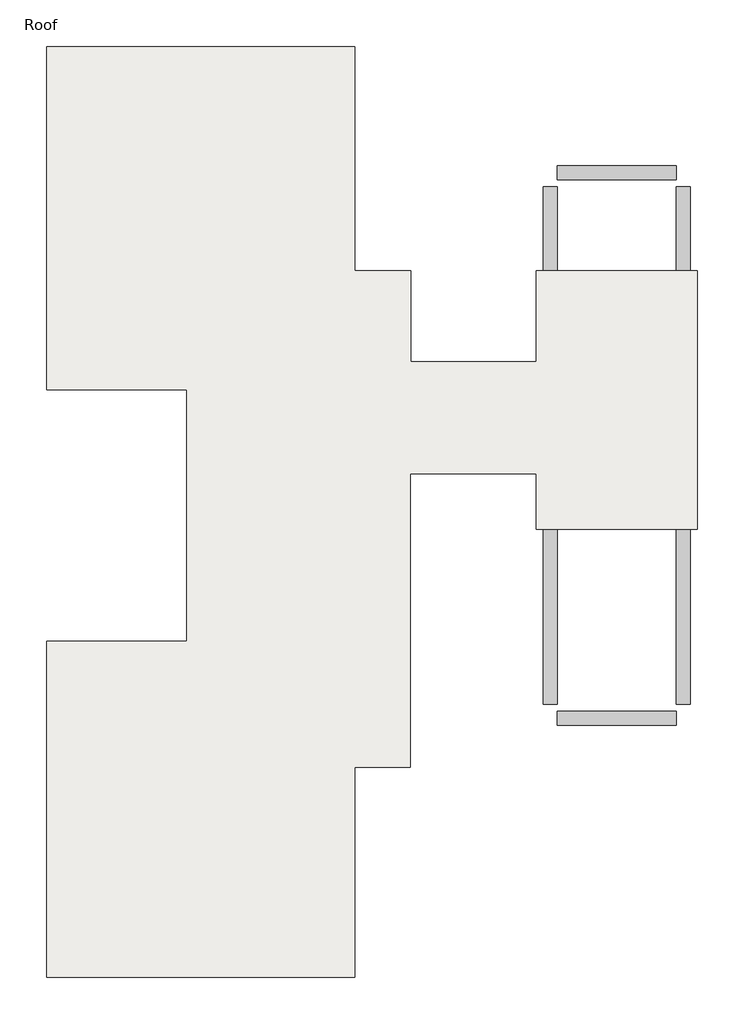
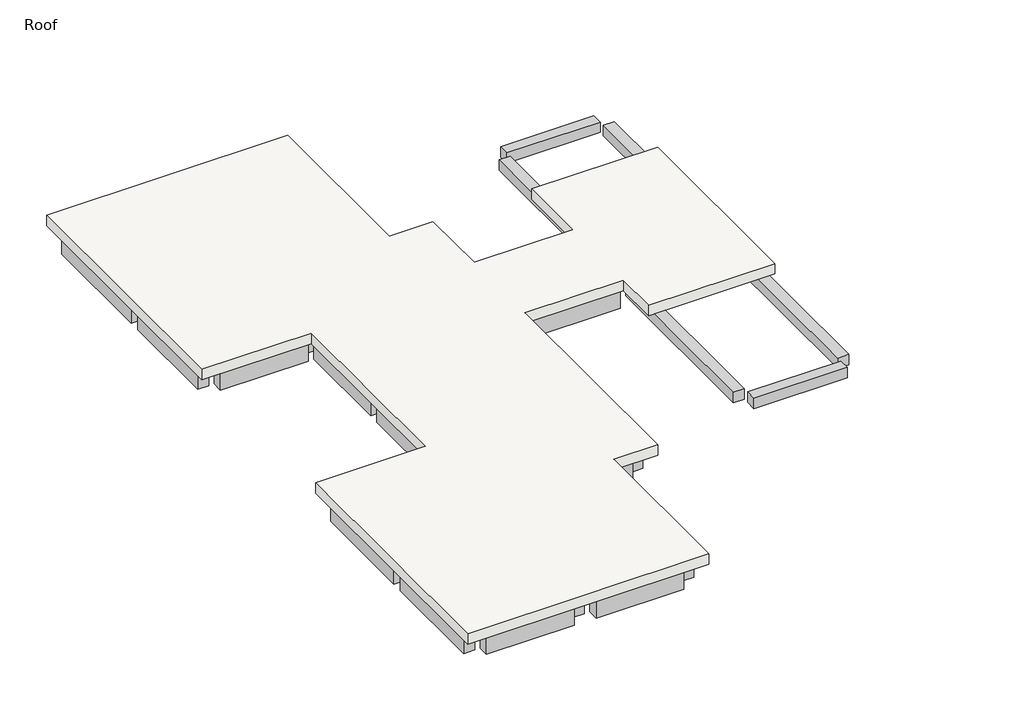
# One storey: 45 beams, 1 slab.
"""IFC4 building model written with IfcOpenShell, lengths in millimetres."""

import ifcopenshell
import ifcopenshell.guid

model = None  # the IFC model being written
_history = None  # IfcOwnerHistory: only IFC2X3 demands one
_inside = {}  # id of a spatial element -> (the spatial element, [elements in it])
_under = {}  # id of a project, library or spatial element -> (it, [spatial elements below it])
_declared = {}  # id of a project -> (the project, [libraries it declares])
_typed = {}  # id of a type object -> (the type object, [elements of that type])
_made_of = {}  # id of a material, layer set ... -> (it, [elements and type objects made of it])


def new_model(schema):
    """Start an empty IFC model of exactly this schema.

    Asked for "IFC4X3", IfcOpenShell would pick the latest addendum, in which some entities
    have other attributes; the version numbers below select the first issue.
    IFC2X3 requires an IfcOwnerHistory on every rooted entity: one is made here for all.
    """
    global model, _history
    if schema == "IFC4X3":
        model = ifcopenshell.file(schema_version=(4, 3, 0, 0))
    else:
        model = ifcopenshell.file(schema=schema)
    _inside.clear()
    _under.clear()
    _declared.clear()
    _typed.clear()
    _made_of.clear()
    _history = None
    if model.schema == "IFC2X3":
        org = make("IfcOrganization", Name="unknown")
        user = make(
            "IfcPersonAndOrganization",
            ThePerson=make("IfcPerson", FamilyName="unknown"),
            TheOrganization=org,
        )
        app = make(
            "IfcApplication",
            ApplicationDeveloper=org,
            Version="unknown",
            ApplicationFullName="unknown",
            ApplicationIdentifier="unknown",
        )
        _history = make(
            "IfcOwnerHistory",
            OwningUser=user,
            OwningApplication=app,
            ChangeAction="ADDED",
            CreationDate=0,
        )
    return model


def make(cls, **values):
    """One entity of the class cls with the attributes given. An attribute that is None is left unset."""
    return model.create_entity(
        cls, **{name: value for name, value in values.items() if value is not None}
    )


def rooted(cls, **values):
    """An entity with a GlobalId (a new one), such as an element, a storey or a relation."""
    return make(cls, GlobalId=ifcopenshell.guid.new(), OwnerHistory=_history, **values)


def si_unit(unit_type, name, prefix=None):
    """IfcSIUnit, for example si_unit("LENGTHUNIT", "METRE", prefix="MILLI")."""
    return make("IfcSIUnit", UnitType=unit_type, Prefix=prefix, Name=name)


def assignment(units):
    """IfcUnitAssignment: the units of a project."""
    return None if units is None else make("IfcUnitAssignment", Units=units)


def point(xyz):
    """IfcCartesianPoint."""
    return None if xyz is None else make("IfcCartesianPoint", Coordinates=xyz)


def direction(xyz):
    """IfcDirection."""
    return None if xyz is None else make("IfcDirection", DirectionRatios=xyz)


def frame(location, z_axis=None, x_axis=None):
    """IfcAxis2Placement3D, a coordinate frame: its origin and axes. An axis left out is left unset."""
    return make(
        "IfcAxis2Placement3D",
        Location=point(location),
        Axis=direction(z_axis),
        RefDirection=direction(x_axis),
    )


def origin():
    """The frame at (0, 0, 0) with its axes left unset."""
    return frame((0.0, 0.0, 0.0))


def place(relative_to, where):
    """IfcLocalPlacement: puts the frame where relative to a parent placement (None: the world)."""
    return make(
        "IfcLocalPlacement", PlacementRelTo=relative_to, RelativePlacement=where
    )


def context(
    kind, dimensions, precision=None, world=None, true_north=None, identifier=None
):
    """IfcGeometricRepresentationContext, for example the 3D "Model" context."""
    return make(
        "IfcGeometricRepresentationContext",
        ContextIdentifier=identifier,
        ContextType=kind,
        CoordinateSpaceDimension=dimensions,
        Precision=precision,
        WorldCoordinateSystem=world,
        TrueNorth=true_north,
    )


def project(units=None, contexts=None):
    """IfcProject with its units and contexts."""
    return rooted(
        "IfcProject",
        Name="project",
        RepresentationContexts=contexts,
        UnitsInContext=assignment(units),
    )


def spatial(cls, under=None, at=None, **own):
    """A site, building, storey or space (cls), placed at a placement, below another one or the project."""
    s = rooted(cls, ObjectPlacement=at, **own)
    if under is not None:
        _under.setdefault(under.id(), (under, []))[1].append(s)
    return s


def polyline(points):
    """IfcPolyline through the points."""
    return make("IfcPolyline", Points=[point(p) for p in points])


def outline(outer, holes=None, kind="AREA"):
    """IfcArbitraryClosedProfileDef: a profile drawn as a closed curve; with holes, ...WithVoids."""
    if holes is None:
        return make("IfcArbitraryClosedProfileDef", ProfileType=kind, OuterCurve=outer)
    return make(
        "IfcArbitraryProfileDefWithVoids",
        ProfileType=kind,
        OuterCurve=outer,
        InnerCurves=holes,
    )


def extrude(swept, where, along, depth):
    """IfcExtrudedAreaSolid: the profile swept, set in the frame where, extruded along a direction by depth."""
    return make(
        "IfcExtrudedAreaSolid",
        SweptArea=swept,
        Position=where,
        ExtrudedDirection=direction(along),
        Depth=depth,
    )


def faces_of(points, faces, orient=None, outer=None):
    """IfcFace entities. A face is a list of loops; a loop is a list of indices into points, from 0.

    orient and outer hold one flag for each loop. By default every Orientation is true, the
    first loop of a face is its IfcFaceOuterBound and the others are IfcFaceBound.
    """
    made = []
    for i, loops in enumerate(faces):
        bounds = []
        for j, loop in enumerate(loops):
            is_outer = j == 0 if outer is None else outer[i][j]
            bounds.append(
                make(
                    "IfcFaceOuterBound" if is_outer else "IfcFaceBound",
                    Bound=make("IfcPolyLoop", Polygon=[points[k] for k in loop]),
                    Orientation=True if orient is None else orient[i][j],
                )
            )
        made.append(make("IfcFace", Bounds=bounds))
    return made


def faceted_brep(points, faces, orient=None, outer=None, voids=None):
    """IfcFacetedBrep: a solid bounded by flat faces; with voids (closed shells), ...WithVoids."""
    shared = [point(p) for p in points]
    hull = make("IfcClosedShell", CfsFaces=faces_of(shared, faces, orient, outer))
    if voids is None:
        return make("IfcFacetedBrep", Outer=hull)
    return make(
        "IfcFacetedBrepWithVoids",
        Outer=hull,
        Voids=[
            make(cls, CfsFaces=faces_of(shared, fs, o, b)) for cls, fs, o, b in voids
        ],
    )


def shape(context_of_items, identifier, shape_type, items):
    """IfcShapeRepresentation: the items that make up one representation, for example the "Body"."""
    return make(
        "IfcShapeRepresentation",
        ContextOfItems=context_of_items,
        RepresentationIdentifier=identifier,
        RepresentationType=shape_type,
        Items=items,
    )


def made_of(thing, what):
    """Note that an element or type object is made of a material, layer set ...; save() writes the relation."""
    if what is not None:
        _made_of.setdefault(what.id(), (what, []))[1].append(thing)
    return thing


def element(
    cls,
    number,
    at=None,
    inside=None,
    cuts=None,
    type_object=None,
    material=None,
    context=None,
    identifier="Body",
    shape_type=None,
    held_by="IfcProductDefinitionShape",
    body=None,
    shapes=None,
    **own,
):
    """One element of the class cls, such as IfcWall. Its Tag is "e" and its number.

    at: its placement. inside: the storey or other place that contains it. cuts: it is an
    opening in that element (IfcRelVoidsElement). A single representation is given by context,
    identifier, shape_type and body (its items); several are given by shapes. held_by: the class
    of the entity that holds the representations. save() writes the other relations.
    """
    e = rooted(cls, Tag="e%d" % number, ObjectPlacement=at, **own)
    if body is not None:
        shapes = [shape(context, identifier, shape_type, body)]
    if shapes is not None:
        e.Representation = make(held_by, Representations=shapes)
    if inside is not None:
        _inside.setdefault(inside.id(), (inside, []))[1].append(e)
    if cuts is not None:
        rooted(
            "IfcRelVoidsElement", RelatingBuildingElement=cuts, RelatedOpeningElement=e
        )
    if type_object is not None:
        _typed.setdefault(type_object.id(), (type_object, []))[1].append(e)
    return made_of(e, material)


def aggregate(whole, parts):
    """IfcRelAggregates: a whole, such as a stair, and the parts it consists of."""
    return rooted("IfcRelAggregates", RelatingObject=whole, RelatedObjects=parts)


def save(model, path):
    """Write the relations noted so far, then the file.

    IfcRelAggregates (storeys below a building ...), IfcRelContainedInSpatialStructure (elements
    in a storey), IfcRelDefinesByType, IfcRelAssociatesMaterial and IfcRelDeclares: one each for
    every whole, place, type object, material and project.
    """
    for whole, parts in _under.values():
        aggregate(whole, parts)
    for where, things in _inside.values():
        rooted(
            "IfcRelContainedInSpatialStructure",
            RelatedElements=things,
            RelatingStructure=where,
        )
    for kind, things in _typed.values():
        rooted("IfcRelDefinesByType", RelatedObjects=things, RelatingType=kind)
    for what, things in _made_of.values():
        rooted("IfcRelAssociatesMaterial", RelatedObjects=things, RelatingMaterial=what)
    for by, libraries in _declared.values():
        rooted("IfcRelDeclares", RelatingContext=by, RelatedDefinitions=libraries)
    model.write(path)


model = new_model("IFC4")

# Units and contexts
model_context = context("Model", 3, world=origin())
ifc_project = project(units=[si_unit("LENGTHUNIT", "METRE", prefix="MILLI")], contexts=[model_context])

# Site, building, storey
site = spatial("IfcSite", under=ifc_project)
building = spatial("IfcBuilding", under=site)
storey = spatial("IfcBuildingStorey", under=building, Name="Roof", Elevation=7620.0)

# Beams
placement = place(None, origin())
element("IfcBeam", 1, ObjectType="Concrete-Rectangular Beam : 12 x 24", at=placement, inside=storey, context=model_context, shape_type="SweptSolid", body=[
    extrude(outline(polyline([(-12861.5073204, 23464.2572372), (-12861.5073204, 23769.0572372), (-10423.1073204, 23769.0572372), (-10423.1073204, 23464.2572372), (-12861.5073204, 23464.2572372)])), frame((0.0, 0.0, 6705.6), z_axis=(0.0, 0.0, 1.0), x_axis=(1.0, 0.0, 0.0)), (0.0, 0.0, 1.0), 609.6),
])
element("IfcBeam", 2, ObjectType="Concrete-Rectangular Beam : 12 x 24", at=placement, inside=storey, context=model_context, shape_type="SweptSolid", body=[
    extrude(outline(polyline([(-9813.5073204, 23464.2572372), (-9813.5073204, 23769.0572372), (-7375.1073204, 23769.0572372), (-7375.1073204, 23464.2572372), (-9813.5073204, 23464.2572372)])), frame((0.0, 0.0, 6705.6), z_axis=(0.0, 0.0, 1.0), x_axis=(1.0, 0.0, 0.0)), (0.0, 0.0, 1.0), 609.6),
])
element("IfcBeam", 3, ObjectType="Concrete-Rectangular Beam : 12 x 24", at=placement, inside=storey, context=model_context, shape_type="SweptSolid", body=[
    extrude(outline(polyline([(-7222.7073204, 23464.2572372), (-6917.9073204, 23464.2572372), (-6917.9073204, 20111.4572372), (-7222.7073204, 20111.4572372), (-7222.7073204, 23464.2572372)])), frame((0.0, 0.0, 6705.6), z_axis=(0.0, 0.0, 1.0), x_axis=(1.0, 0.0, 0.0)), (0.0, 0.0, 1.0), 609.6),
])
element("IfcBeam", 4, ObjectType="Concrete-Rectangular Beam : 12 x 24", at=placement, inside=storey, context=model_context, shape_type="SweptSolid", body=[
    extrude(outline(polyline([(-10270.7073204, 23464.2572372), (-9965.9073204, 23464.2572372), (-9965.9073204, 20111.4572372), (-10270.7073204, 20111.4572372), (-10270.7073204, 23464.2572372)])), frame((0.0, 0.0, 6705.6), z_axis=(0.0, 0.0, 1.0), x_axis=(1.0, 0.0, 0.0)), (0.0, 0.0, 1.0), 609.6),
])
element("IfcBeam", 5, ObjectType="Concrete-Rectangular Beam : 12 x 24", at=placement, inside=storey, context=model_context, shape_type="SweptSolid", body=[
    extrude(outline(polyline([(-13318.7073204, 23464.2572372), (-13013.9073204, 23464.2572372), (-13013.9073204, 20111.4572372), (-13318.7073204, 20111.4572372), (-13318.7073204, 23464.2572372)])), frame((0.0, 0.0, 6705.6), z_axis=(0.0, 0.0, 1.0), x_axis=(1.0, 0.0, 0.0)), (0.0, 0.0, 1.0), 609.6),
])
element("IfcBeam", 6, ObjectType="Concrete-Rectangular Beam : 12 x 24", at=placement, inside=storey, context=model_context, shape_type="SweptSolid", body=[
    extrude(outline(polyline([(-12861.5073204, 19806.6572372), (-12861.5073204, 20111.4572372), (-10423.1073204, 20111.4572372), (-10423.1073204, 19806.6572372), (-12861.5073204, 19806.6572372)])), frame((0.0, 0.0, 6705.6), z_axis=(0.0, 0.0, 1.0), x_axis=(1.0, 0.0, 0.0)), (0.0, 0.0, 1.0), 609.6),
])
element("IfcBeam", 7, ObjectType="Concrete-Rectangular Beam : 12 x 24", at=placement, inside=storey, context=model_context, shape_type="SweptSolid", body=[
    extrude(outline(polyline([(-9813.5073204, 19806.6572372), (-9813.5073204, 20111.4572372), (-7375.1073204, 20111.4572372), (-7375.1073204, 19806.6572372), (-9813.5073204, 19806.6572372)])), frame((0.0, 0.0, 6705.6), z_axis=(0.0, 0.0, 1.0), x_axis=(1.0, 0.0, 0.0)), (0.0, 0.0, 1.0), 609.6),
])
element("IfcBeam", 8, ObjectType="Concrete-Rectangular Beam : 12 x 24", at=placement, inside=storey, context=model_context, shape_type="SweptSolid", body=[
    extrude(outline(polyline([(-13318.7073204, 19806.6572372), (-13013.9073204, 19806.6572372), (-13013.9073204, 16911.0572372), (-13318.7073204, 16911.0572372), (-13318.7073204, 19806.6572372)])), frame((0.0, 0.0, 6705.6), z_axis=(0.0, 0.0, 1.0), x_axis=(1.0, 0.0, 0.0)), (0.0, 0.0, 1.0), 609.6),
])
element("IfcBeam", 9, ObjectType="Concrete-Rectangular Beam : 12 x 24", at=placement, inside=storey, context=model_context, shape_type="SweptSolid", body=[
    extrude(outline(polyline([(-10270.7073204, 19806.6572372), (-9965.9073204, 19806.6572372), (-9965.9073204, 16911.0572372), (-10270.7073204, 16911.0572372), (-10270.7073204, 19806.6572372)])), frame((0.0, 0.0, 6705.6), z_axis=(0.0, 0.0, 1.0), x_axis=(1.0, 0.0, 0.0)), (0.0, 0.0, 1.0), 609.6),
])
element("IfcBeam", 10, ObjectType="Concrete-Rectangular Beam : 12 x 24", at=placement, inside=storey, context=model_context, shape_type="Brep", body=[
    faceted_brep([(-6917.9073204, 19806.6572372, 7315.2), (-7222.7073204, 19806.6572372, 7315.2), (-7222.7073204, 18588.1999409, 7315.2), (-6917.9073204, 18588.1999409, 7315.2), (-6917.9073204, 18892.9999409, 7315.2), (-7222.7073204, 19806.6572372, 6705.6), (-7222.7073204, 18588.1999409, 6705.6), (-6917.9073204, 19806.6572372, 6705.6), (-6917.9073204, 18892.9999409, 6705.6), (-6917.9073204, 18588.1999409, 6705.6)], [[[0, 1, 2, 3, 4]], [[1, 5, 6, 2]], [[5, 7, 8, 9, 6]], [[3, 9, 8, 7, 0, 4]], [[0, 7, 5, 1]], [[3, 2, 6, 9]]]),
])
element("IfcBeam", 11, ObjectType="Concrete-Rectangular Beam : 12 x 24", at=placement, inside=storey, context=model_context, shape_type="SweptSolid", body=[
    extrude(outline(polyline([(-6917.9073204, 18588.1999409), (-6917.9073204, 18892.9999409), (-6156.6500241, 18892.9999409), (-6156.6500241, 18588.1999409), (-6917.9073204, 18588.1999409)])), frame((0.0, 0.0, 6705.6), z_axis=(0.0, 0.0, 1.0), x_axis=(1.0, 0.0, 0.0)), (0.0, 0.0, 1.0), 609.6),
])
element("IfcBeam", 12, ObjectType="Concrete-Rectangular Beam : 12 x 24", at=placement, inside=storey, context=model_context, shape_type="SweptSolid", body=[
    extrude(outline(polyline([(-6004.2500241, 18588.1999409), (-5699.4500241, 18588.1999409), (-5699.4500241, 16911.0572372), (-6004.2500241, 16911.0572372), (-6004.2500241, 18588.1999409)])), frame((0.0, 0.0, 6705.6), z_axis=(0.0, 0.0, 1.0), x_axis=(1.0, 0.0, 0.0)), (0.0, 0.0, 1.0), 609.6),
])
element("IfcBeam", 13, ObjectType="Concrete-Rectangular Beam : 12 x 24", at=placement, inside=storey, context=model_context, shape_type="SweptSolid", body=[
    extrude(outline(polyline([(-9813.5073204, 16606.2572372), (-9813.5073204, 16911.0572372), (-6156.6500241, 16911.0572372), (-6156.6500241, 16606.2572372), (-9813.5073204, 16606.2572372)])), frame((0.0, 0.0, 6705.6), z_axis=(0.0, 0.0, 1.0), x_axis=(1.0, 0.0, 0.0)), (0.0, 0.0, 1.0), 609.6),
])
element("IfcBeam", 14, ObjectType="Concrete-Rectangular Beam : 12 x 24", at=placement, inside=storey, context=model_context, shape_type="SweptSolid", body=[
    extrude(outline(polyline([(-12861.5073204, 16606.2572372), (-12861.5073204, 16911.0572372), (-10423.1073204, 16911.0572372), (-10423.1073204, 16606.2572372), (-12861.5073204, 16606.2572372)])), frame((0.0, 0.0, 6705.6), z_axis=(0.0, 0.0, 1.0), x_axis=(1.0, 0.0, 0.0)), (0.0, 0.0, 1.0), 609.6),
])
element("IfcBeam", 15, ObjectType="Concrete-Rectangular Beam : 12 x 24", at=placement, inside=storey, context=model_context, shape_type="SweptSolid", body=[
    extrude(outline(polyline([(-2803.8500241, 16911.0572372), (-2803.8500241, 16606.2572372), (-5547.0500241, 16606.2572372), (-5547.0500241, 16911.0572372), (-2803.8500241, 16911.0572372)])), frame((0.0, 0.0, 6705.6), z_axis=(0.0, 0.0, 1.0), x_axis=(1.0, 0.0, 0.0)), (0.0, 0.0, 1.0), 609.6),
])
element("IfcBeam", 16, ObjectType="Concrete-Rectangular Beam : 12 x 24", at=placement, inside=storey, context=model_context, shape_type="Brep", body=[
    faceted_brep([(-5699.4500241, 16606.2572372, 7315.2), (-6004.2500241, 16606.2572372, 7315.2), (-6004.2500241, 13863.0572372, 7315.2), (-5699.4500241, 13863.0572372, 7315.2), (-5699.4500241, 14777.4572372, 7315.2), (-5699.4500241, 15082.2572372, 7315.2), (-6004.2500241, 16606.2572372, 6705.6), (-6004.2500241, 13863.0572372, 6705.6), (-5699.4500241, 16606.2572372, 6705.6), (-5699.4500241, 15082.2572372, 6705.6), (-5699.4500241, 14777.4572372, 6705.6), (-5699.4500241, 13863.0572372, 6705.6)], [[[0, 1, 2, 3, 4, 5]], [[1, 6, 7, 2]], [[6, 8, 9, 10, 11, 7]], [[8, 0, 5, 4, 3, 11, 10, 9]], [[6, 1, 0, 8]], [[3, 2, 7, 11]]]),
])
element("IfcBeam", 17, ObjectType="Concrete-Rectangular Beam : 12 x 24", at=placement, inside=storey, context=model_context, shape_type="SweptSolid", body=[
    extrude(outline(polyline([(-2803.8500241, 15082.2572372), (-2803.8500241, 14777.4572372), (-5699.4500241, 14777.4572372), (-5699.4500241, 15082.2572372), (-2803.8500241, 15082.2572372)])), frame((0.0, 0.0, 6705.6), z_axis=(0.0, 0.0, 1.0), x_axis=(1.0, 0.0, 0.0)), (0.0, 0.0, 1.0), 609.6),
])
element("IfcBeam", 18, ObjectType="Concrete-Rectangular Beam : 12 x 24", at=placement, inside=storey, context=model_context, shape_type="SweptSolid", body=[
    extrude(outline(polyline([(-10270.7073204, 16606.2572372), (-9965.9073204, 16606.2572372), (-9965.9073204, 13863.0572372), (-10270.7073204, 13863.0572372), (-10270.7073204, 16606.2572372)])), frame((0.0, 0.0, 6705.6), z_axis=(0.0, 0.0, 1.0), x_axis=(1.0, 0.0, 0.0)), (0.0, 0.0, 1.0), 609.6),
])
element("IfcBeam", 19, ObjectType="Concrete-Rectangular Beam : 12 x 24", at=placement, inside=storey, context=model_context, shape_type="SweptSolid", body=[
    extrude(outline(polyline([(-10270.7073204, 13558.2572372), (-9965.9073204, 13558.2572372), (-9965.9073204, 10815.0572372), (-10270.7073204, 10815.0572372), (-10270.7073204, 13558.2572372)])), frame((0.0, 0.0, 6705.6), z_axis=(0.0, 0.0, 1.0), x_axis=(1.0, 0.0, 0.0)), (0.0, 0.0, 1.0), 609.6),
])
element("IfcBeam", 20, ObjectType="Concrete-Rectangular Beam : 12 x 24", at=placement, inside=storey, context=model_context, shape_type="SweptSolid", body=[
    extrude(outline(polyline([(-9813.5073204, 10510.2572372), (-9813.5073204, 10815.0572372), (-6156.6500241, 10815.0572372), (-6156.6500241, 10510.2572372), (-9813.5073204, 10510.2572372)])), frame((0.0, 0.0, 6705.6), z_axis=(0.0, 0.0, 1.0), x_axis=(1.0, 0.0, 0.0)), (0.0, 0.0, 1.0), 609.6),
])
element("IfcBeam", 21, ObjectType="Concrete-Rectangular Beam : 12 x 24", at=placement, inside=storey, context=model_context, shape_type="SweptSolid", body=[
    extrude(outline(polyline([(-6156.6500241, 13863.0572372), (-6156.6500241, 13558.2572372), (-9813.5073204, 13558.2572372), (-9813.5073204, 13863.0572372), (-6156.6500241, 13863.0572372)])), frame((0.0, 0.0, 6705.6), z_axis=(0.0, 0.0, 1.0), x_axis=(1.0, 0.0, 0.0)), (0.0, 0.0, 1.0), 609.6),
])
element("IfcBeam", 22, ObjectType="Concrete-Rectangular Beam : 12 x 24", at=placement, inside=storey, context=model_context, shape_type="SweptSolid", body=[
    extrude(outline(polyline([(-5699.4500241, 10815.0572372), (-6004.2500241, 10815.0572372), (-6004.2500241, 13558.2572372), (-5699.4500241, 13558.2572372), (-5699.4500241, 10815.0572372)])), frame((0.0, 0.0, 6705.6), z_axis=(0.0, 0.0, 1.0), x_axis=(1.0, 0.0, 0.0)), (0.0, 0.0, 1.0), 609.6),
])
element("IfcBeam", 23, ObjectType="Concrete-Rectangular Beam : 12 x 24", at=placement, inside=storey, context=model_context, shape_type="SweptSolid", body=[
    extrude(outline(polyline([(-12861.5073204, 10510.2572372), (-12861.5073204, 10815.0572372), (-10423.1073204, 10815.0572372), (-10423.1073204, 10510.2572372), (-12861.5073204, 10510.2572372)])), frame((0.0, 0.0, 6705.6), z_axis=(0.0, 0.0, 1.0), x_axis=(1.0, 0.0, 0.0)), (0.0, 0.0, 1.0), 609.6),
])
element("IfcBeam", 24, ObjectType="Concrete-Rectangular Beam : 12 x 24", at=placement, inside=storey, context=model_context, shape_type="SweptSolid", body=[
    extrude(outline(polyline([(-13318.7073204, 10510.2572372), (-13013.9073204, 10510.2572372), (-13013.9073204, 7462.2572372), (-13318.7073204, 7462.2572372), (-13318.7073204, 10510.2572372)])), frame((0.0, 0.0, 6705.6), z_axis=(0.0, 0.0, 1.0), x_axis=(1.0, 0.0, 0.0)), (0.0, 0.0, 1.0), 609.6),
])
element("IfcBeam", 25, ObjectType="Concrete-Rectangular Beam : 12 x 24", at=placement, inside=storey, context=model_context, shape_type="SweptSolid", body=[
    extrude(outline(polyline([(-10270.7073204, 10510.2572372), (-9965.9073204, 10510.2572372), (-9965.9073204, 7462.2572372), (-10270.7073204, 7462.2572372), (-10270.7073204, 10510.2572372)])), frame((0.0, 0.0, 6705.6), z_axis=(0.0, 0.0, 1.0), x_axis=(1.0, 0.0, 0.0)), (0.0, 0.0, 1.0), 609.6),
])
element("IfcBeam", 26, ObjectType="Concrete-Rectangular Beam : 12 x 24", at=placement, inside=storey, context=model_context, shape_type="SweptSolid", body=[
    extrude(outline(polyline([(-6004.2500241, 10510.2572372), (-5699.4500241, 10510.2572372), (-5699.4500241, 8681.4572372), (-6004.2500241, 8681.4572372), (-6004.2500241, 10510.2572372)])), frame((0.0, 0.0, 6705.6), z_axis=(0.0, 0.0, 1.0), x_axis=(1.0, 0.0, 0.0)), (0.0, 0.0, 1.0), 609.6),
])
element("IfcBeam", 27, ObjectType="Concrete-Rectangular Beam : 12 x 24", at=placement, inside=storey, context=model_context, shape_type="Brep", body=[
    faceted_brep([(-7223.4500241, 8681.4572372, 7315.2), (-7223.4500241, 8376.6572372, 7315.2), (-6918.6500241, 8376.6572372, 7315.2), (-6156.6500241, 8376.6572372, 7315.2), (-6156.6500241, 8681.4572372, 7315.2), (-7223.4500241, 8681.4572372, 6705.6), (-6156.6500241, 8681.4572372, 6705.6), (-7223.4500241, 8376.6572372, 6705.6), (-6156.6500241, 8376.6572372, 6705.6), (-6918.6500241, 8376.6572372, 6705.6)], [[[0, 1, 2, 3, 4]], [[5, 0, 4, 6]], [[7, 5, 6, 8, 9]], [[1, 7, 9, 8, 3, 2]], [[4, 3, 8, 6]], [[1, 0, 5, 7]]]),
])
element("IfcBeam", 28, ObjectType="Concrete-Rectangular Beam : 12 x 24", at=placement, inside=storey, context=model_context, shape_type="SweptSolid", body=[
    extrude(outline(polyline([(-7223.4500241, 8376.6572372), (-6918.6500241, 8376.6572372), (-6918.6500241, 7462.2572372), (-7223.4500241, 7462.2572372), (-7223.4500241, 8376.6572372)])), frame((0.0, 0.0, 6705.6), z_axis=(0.0, 0.0, 1.0), x_axis=(1.0, 0.0, 0.0)), (0.0, 0.0, 1.0), 609.6),
])
element("IfcBeam", 29, ObjectType="Concrete-Rectangular Beam : 12 x 24", at=placement, inside=storey, context=model_context, shape_type="SweptSolid", body=[
    extrude(outline(polyline([(-7375.8500241, 7462.2572372), (-7375.8500241, 7157.4572372), (-9813.5073204, 7157.4572372), (-9813.5073204, 7462.2572372), (-7375.8500241, 7462.2572372)])), frame((0.0, 0.0, 6705.6), z_axis=(0.0, 0.0, 1.0), x_axis=(1.0, 0.0, 0.0)), (0.0, 0.0, 1.0), 609.6),
])
element("IfcBeam", 30, ObjectType="Concrete-Rectangular Beam : 12 x 24", at=placement, inside=storey, context=model_context, shape_type="SweptSolid", body=[
    extrude(outline(polyline([(-10423.1073204, 7462.2572372), (-10423.1073204, 7157.4572372), (-12861.5073204, 7157.4572372), (-12861.5073204, 7462.2572372), (-10423.1073204, 7462.2572372)])), frame((0.0, 0.0, 6705.6), z_axis=(0.0, 0.0, 1.0), x_axis=(1.0, 0.0, 0.0)), (0.0, 0.0, 1.0), 609.6),
])
element("IfcBeam", 31, ObjectType="Concrete-Rectangular Beam : 12 x 24", at=placement, inside=storey, context=model_context, shape_type="SweptSolid", body=[
    extrude(outline(polyline([(-13318.7073204, 7157.4572372), (-13013.9073204, 7157.4572372), (-13013.9073204, 4109.4572372), (-13318.7073204, 4109.4572372), (-13318.7073204, 7157.4572372)])), frame((0.0, 0.0, 6705.6), z_axis=(0.0, 0.0, 1.0), x_axis=(1.0, 0.0, 0.0)), (0.0, 0.0, 1.0), 609.6),
])
element("IfcBeam", 32, ObjectType="Concrete-Rectangular Beam : 12 x 24", at=placement, inside=storey, context=model_context, shape_type="SweptSolid", body=[
    extrude(outline(polyline([(-10270.7073204, 7157.4572372), (-9965.9073204, 7157.4572372), (-9965.9073204, 4109.4572372), (-10270.7073204, 4109.4572372), (-10270.7073204, 7157.4572372)])), frame((0.0, 0.0, 6705.6), z_axis=(0.0, 0.0, 1.0), x_axis=(1.0, 0.0, 0.0)), (0.0, 0.0, 1.0), 609.6),
])
element("IfcBeam", 33, ObjectType="Concrete-Rectangular Beam : 12 x 24", at=placement, inside=storey, context=model_context, shape_type="SweptSolid", body=[
    extrude(outline(polyline([(-7223.4500241, 7157.4572372), (-6918.6500241, 7157.4572372), (-6918.6500241, 4109.4572372), (-7223.4500241, 4109.4572372), (-7223.4500241, 7157.4572372)])), frame((0.0, 0.0, 6705.6), z_axis=(0.0, 0.0, 1.0), x_axis=(1.0, 0.0, 0.0)), (0.0, 0.0, 1.0), 609.6),
])
element("IfcBeam", 34, ObjectType="Concrete-Rectangular Beam : 12 x 24", at=placement, inside=storey, context=model_context, shape_type="SweptSolid", body=[
    extrude(outline(polyline([(-9813.5073204, 3804.6572372), (-9813.5073204, 4109.4572372), (-7375.1073204, 4109.4572372), (-7375.1073204, 3804.6572372), (-9813.5073204, 3804.6572372)])), frame((0.0, 0.0, 6705.6), z_axis=(0.0, 0.0, 1.0), x_axis=(1.0, 0.0, 0.0)), (0.0, 0.0, 1.0), 609.6),
])
element("IfcBeam", 35, ObjectType="Concrete-Rectangular Beam : 12 x 24", at=placement, inside=storey, context=model_context, shape_type="SweptSolid", body=[
    extrude(outline(polyline([(-12861.5073204, 3804.6572372), (-12861.5073204, 4109.4572372), (-10423.1073204, 4109.4572372), (-10423.1073204, 3804.6572372), (-12861.5073204, 3804.6572372)])), frame((0.0, 0.0, 6705.6), z_axis=(0.0, 0.0, 1.0), x_axis=(1.0, 0.0, 0.0)), (0.0, 0.0, 1.0), 609.6),
])
element("IfcBeam", 36, ObjectType="Concrete-Rectangular Beam : 12 x 24", at=placement, inside=storey, context=model_context, shape_type="SweptSolid", body=[
    extrude(outline(polyline([(-2194.2500241, 16606.2572372), (-2194.2500241, 16911.0572372), (89.9860546, 16911.0572372), (89.9860546, 16606.2572372), (-2194.2500241, 16606.2572372)])), frame((0.0, 0.0, 6705.6), z_axis=(0.0, 0.0, 1.0), x_axis=(1.0, 0.0, 0.0)), (0.0, 0.0, 1.0), 609.6),
])
element("IfcBeam", 37, ObjectType="Concrete-Rectangular Beam : 12 x 24", at=placement, inside=storey, context=model_context, shape_type="SweptSolid", body=[
    extrude(outline(polyline([(89.9860546, 15082.2572372), (89.9860546, 14777.4572372), (-2194.2500241, 14777.4572372), (-2194.2500241, 15082.2572372), (89.9860546, 15082.2572372)])), frame((0.0, 0.0, 6705.6), z_axis=(0.0, 0.0, 1.0), x_axis=(1.0, 0.0, 0.0)), (0.0, 0.0, 1.0), 609.6),
])
element("IfcBeam", 38, ObjectType="Concrete-Rectangular Beam : 12 x 24", at=placement, inside=storey, context=model_context, shape_type="SweptSolid", body=[
    extrude(outline(polyline([(-2346.6500241, 14777.4572372), (-2346.6500241, 9595.8572372), (-2651.4500241, 9595.8572372), (-2651.4500241, 14777.4572372), (-2346.6500241, 14777.4572372)])), frame((0.0, 0.0, 7010.4), z_axis=(0.0, 0.0, 1.0), x_axis=(1.0, 0.0, 0.0)), (0.0, 0.0, 1.0), 304.8),
])
element("IfcBeam", 39, ObjectType="Concrete-Rectangular Beam : 12 x 24", at=placement, inside=storey, context=model_context, shape_type="SweptSolid", body=[
    extrude(outline(polyline([(-2346.6500241, 16606.2572372), (-2346.6500241, 15082.2572372), (-2651.4500241, 15082.2572372), (-2651.4500241, 16606.2572372), (-2346.6500241, 16606.2572372)])), frame((0.0, 0.0, 7010.4), z_axis=(0.0, 0.0, 1.0), x_axis=(1.0, 0.0, 0.0)), (0.0, 0.0, 1.0), 304.8),
])
element("IfcBeam", 40, ObjectType="Concrete-Rectangular Beam : 12 x 24", at=placement, inside=storey, context=model_context, shape_type="SweptSolid", body=[
    extrude(outline(polyline([(-2346.6500241, 20873.4572372), (-2346.6500241, 16911.0572372), (-2651.4500241, 16911.0572372), (-2651.4500241, 20873.4572372), (-2346.6500241, 20873.4572372)])), frame((0.0, 0.0, 7010.4), z_axis=(0.0, 0.0, 1.0), x_axis=(1.0, 0.0, 0.0)), (0.0, 0.0, 1.0), 304.8),
])
element("IfcBeam", 41, ObjectType="Concrete-Rectangular Beam : 12 x 24", at=placement, inside=storey, context=model_context, shape_type="SweptSolid", body=[
    extrude(outline(polyline([(242.3860546, 21025.8572372), (-2346.6500241, 21025.8572372), (-2346.6500241, 21330.6572372), (242.3860546, 21330.6572372), (242.3860546, 21025.8572372)])), frame((0.0, 0.0, 7010.4), z_axis=(0.0, 0.0, 1.0), x_axis=(1.0, 0.0, 0.0)), (0.0, 0.0, 1.0), 304.8),
])
element("IfcBeam", 42, ObjectType="Concrete-Rectangular Beam : 12 x 24", at=placement, inside=storey, context=model_context, shape_type="SweptSolid", body=[
    extrude(outline(polyline([(242.3860546, 16911.0572372), (242.3860546, 20873.4572372), (547.1860546, 20873.4572372), (547.1860546, 16911.0572372), (242.3860546, 16911.0572372)])), frame((0.0, 0.0, 7010.4), z_axis=(0.0, 0.0, 1.0), x_axis=(1.0, 0.0, 0.0)), (0.0, 0.0, 1.0), 304.8),
])
element("IfcBeam", 43, ObjectType="Concrete-Rectangular Beam : 12 x 24", at=placement, inside=storey, context=model_context, shape_type="SweptSolid", body=[
    extrude(outline(polyline([(242.3860546, 15082.2572372), (242.3860546, 16606.2572372), (547.1860546, 16606.2572372), (547.1860546, 15082.2572372), (242.3860546, 15082.2572372)])), frame((0.0, 0.0, 7010.4), z_axis=(0.0, 0.0, 1.0), x_axis=(1.0, 0.0, 0.0)), (0.0, 0.0, 1.0), 304.8),
])
element("IfcBeam", 44, ObjectType="Concrete-Rectangular Beam : 12 x 24", at=placement, inside=storey, context=model_context, shape_type="SweptSolid", body=[
    extrude(outline(polyline([(242.3860546, 9595.8572372), (242.3860546, 14777.4572372), (547.1860546, 14777.4572372), (547.1860546, 9595.8572372), (242.3860546, 9595.8572372)])), frame((0.0, 0.0, 7010.4), z_axis=(0.0, 0.0, 1.0), x_axis=(1.0, 0.0, 0.0)), (0.0, 0.0, 1.0), 304.8),
])
element("IfcBeam", 45, ObjectType="Concrete-Rectangular Beam : 12 x 24", at=placement, inside=storey, context=model_context, shape_type="SweptSolid", body=[
    extrude(outline(polyline([(-2346.6500241, 9443.4572372), (242.3860546, 9443.4572372), (242.3860546, 9138.6572372), (-2346.6500241, 9138.6572372), (-2346.6500241, 9443.4572372)])), frame((0.0, 0.0, 7010.4), z_axis=(0.0, 0.0, 1.0), x_axis=(1.0, 0.0, 0.0)), (0.0, 0.0, 1.0), 304.8),
])

# Slab
element("IfcSlab", 46, ObjectType="Generic - 12\"", at=placement, inside=storey, context=model_context, shape_type="Brep", body=[
    faceted_brep([(-6765.5073204, 23921.4572372, 7315.2), (-6765.5073204, 23769.0572372, 7315.2), (-6765.5073204, 23464.2572372, 7315.2), (-6765.5073204, 20111.4572372, 7315.2), (-6765.5073204, 19806.6572372, 7315.2), (-6765.5073204, 19044.6572372, 7315.2), (-5546.3073204, 19044.6572372, 7315.2), (-5546.3073204, 17063.4572372, 7315.2), (-2803.8500241, 17063.4572372, 7315.2), (-2803.8500241, 19044.6572372, 7315.2), (699.5860546, 19044.6572372, 7315.2), (699.5860546, 16911.0572372, 7315.2), (699.5860546, 16606.2572372, 7315.2), (699.5860546, 15082.2572372, 7315.2), (699.5860546, 14777.4572372, 7315.2), (699.5860546, 13405.8572372, 7315.2), (-2803.8500241, 13405.8572372, 7315.2), (-2803.8500241, 14625.0572372, 7315.2), (-5547.0500241, 14625.0572372, 7315.2), (-5547.0500241, 13863.0572372, 7315.2), (-5547.0500241, 13558.2572372, 7315.2), (-5547.0500241, 10815.0572372, 7315.2), (-5547.0500241, 10510.2572372, 7315.2), (-5547.0500241, 8681.4572372, 7315.2), (-5547.0500241, 8376.6572372, 7315.2), (-5547.0500241, 8224.2572372, 7315.2), (-6765.5073204, 8224.2572372, 7315.2), (-6765.5073204, 4109.4572372, 7315.2), (-6765.5073204, 3804.6572372, 7315.2), (-6765.5073204, 3652.2572372, 7315.2), (-13471.1073204, 3652.2572372, 7315.2), (-13471.1073204, 3804.6572372, 7315.2), (-13471.1073204, 4109.4572372, 7315.2), (-13471.1073204, 7157.4572372, 7315.2), (-13471.1073204, 7462.2572372, 7315.2), (-13471.1073204, 10510.2572372, 7315.2), (-13471.1073204, 10815.0572372, 7315.2), (-13471.1073204, 10967.4572372, 7315.2), (-10423.1073204, 10967.4572372, 7315.2), (-10423.1073204, 13558.2572372, 7315.2), (-10423.1073204, 13863.0572372, 7315.2), (-10423.1073204, 16453.8572372, 7315.2), (-13471.1073204, 16453.8572372, 7315.2), (-13471.1073204, 16606.2572372, 7315.2), (-13471.1073204, 16911.0572372, 7315.2), (-13471.1073204, 19806.6572372, 7315.2), (-13471.1073204, 20111.4572372, 7315.2), (-13471.1073204, 23464.2572372, 7315.2), (-13471.1073204, 23769.0572372, 7315.2), (-13471.1073204, 23921.4572372, 7315.2), (-6765.5073204, 23921.4572372, 7620.0), (-13471.1073204, 23921.4572372, 7620.0), (-13471.1073204, 16453.8572372, 7620.0), (-10423.1073204, 16453.8572372, 7620.0), (-10423.1073204, 10967.4572372, 7620.0), (-13471.1073204, 10967.4572372, 7620.0), (-13471.1073204, 3652.2572372, 7620.0), (-6765.5073204, 3652.2572372, 7620.0), (-6765.5073204, 8224.2572372, 7620.0), (-5547.0500241, 8224.2572372, 7620.0), (-5547.0500241, 14625.0572372, 7620.0), (-2803.8500241, 14625.0572372, 7620.0), (-2803.8500241, 13405.8572372, 7620.0), (699.5860546, 13405.8572372, 7620.0), (699.5860546, 19044.6572372, 7620.0), (-2803.8500241, 19044.6572372, 7620.0), (-2803.8500241, 17063.4572372, 7620.0), (-5546.3073204, 17063.4572372, 7620.0), (-5546.3073204, 19044.6572372, 7620.0), (-6765.5073204, 19044.6572372, 7620.0)], [[[0, 1, 2, 3, 4, 5, 6, 7, 8, 9, 10, 11, 12, 13, 14, 15, 16, 17, 18, 19, 20, 21, 22, 23, 24, 25, 26, 27, 28, 29, 30, 31, 32, 33, 34, 35, 36, 37, 38, 39, 40, 41, 42, 43, 44, 45, 46, 47, 48, 49]], [[50, 51, 52, 53, 54, 55, 56, 57, 58, 59, 60, 61, 62, 63, 64, 65, 66, 67, 68, 69]], [[5, 4, 3, 2, 1, 0, 50, 69]], [[6, 5, 69, 68]], [[7, 6, 68, 67]], [[8, 7, 67, 66]], [[9, 8, 66, 65]], [[10, 9, 65, 64]], [[15, 14, 13, 12, 11, 10, 64, 63]], [[16, 15, 63, 62]], [[17, 16, 62, 61]], [[18, 17, 61, 60]], [[25, 24, 23, 22, 21, 20, 19, 18, 60, 59]], [[26, 25, 59, 58]], [[29, 28, 27, 26, 58, 57]], [[30, 29, 57, 56]], [[37, 36, 35, 34, 33, 32, 31, 30, 56, 55]], [[38, 37, 55, 54]], [[41, 40, 39, 38, 54, 53]], [[42, 41, 53, 52]], [[49, 48, 47, 46, 45, 44, 43, 42, 52, 51]], [[0, 49, 51, 50]]]),
])

save(model, "model.ifc")
